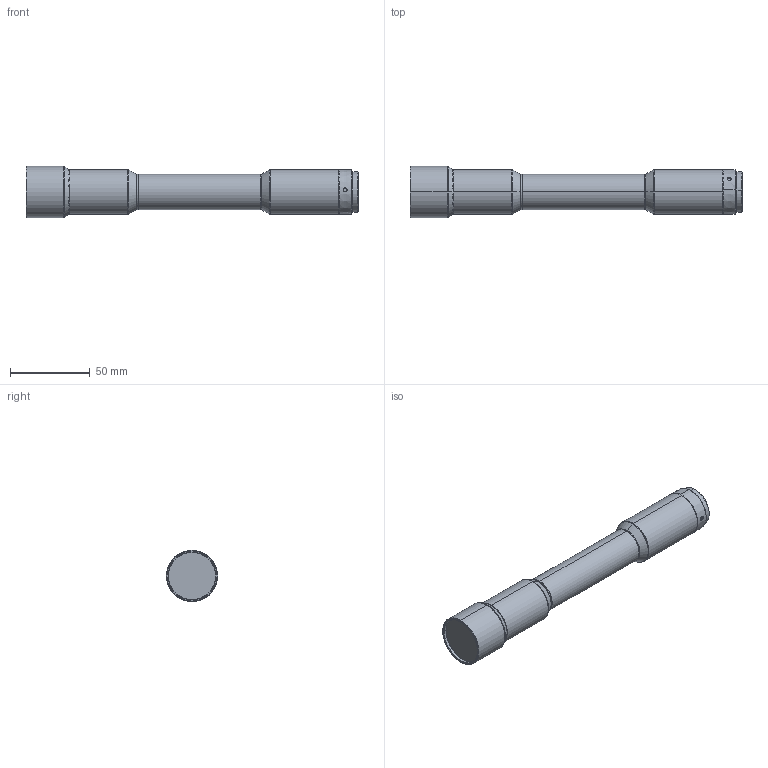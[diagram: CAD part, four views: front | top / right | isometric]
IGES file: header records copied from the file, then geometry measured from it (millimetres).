
Start section: SolidWorks IGES file using analytic representation for surfaces
Global section: file name: E:\liang\光学镜头\WWK\K468-110系列\WWK80-110-111V3\发客户3D图\WWK80-108-111V3.IGS; native system: SolidWorks 2017; preprocessor: SolidWorks 2017; author: wenru; date: 220929.184110; units: millimetre
Bounding box: 207.93 x 32 x 32 mm (x, y, z)
Surface area: 19019.7 mm2 (no closed solid volume)
Topology: 0 solids, 0 shells, 68 faces, 1140 edges, 1140 vertices
Faces by surface type: revolution 47, bspline 21
